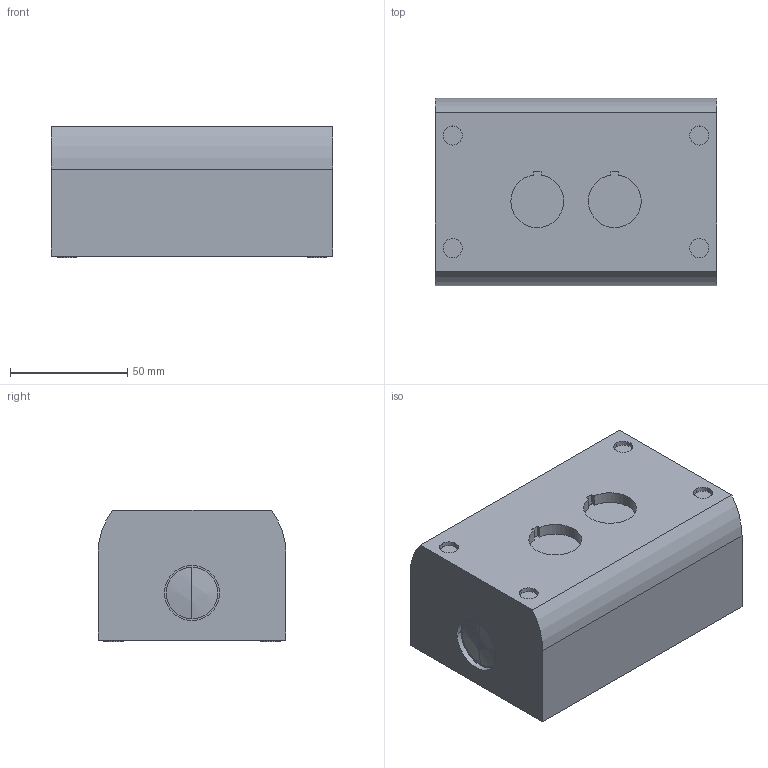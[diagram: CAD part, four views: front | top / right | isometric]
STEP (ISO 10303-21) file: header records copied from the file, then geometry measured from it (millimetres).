
FILE_DESCRIPTION( ( '' ), '1' );
FILE_NAME( '//expscmdclustefs.cadenas.external/client_exchange/iodir/jobs/output/wkb45968538_no0/STEP/216537_2_03.stp', '2012-06-14T13:43:43', ( '' ), ( '' ), ' ', ' ', ' ' );
FILE_SCHEMA( ( 'CONFIG_CONTROL_DESIGN' ) );
Length unit declared in the file: millimetre
Products named in the file (1): 1
Bounding box: 120 x 80 x 56 mm (x, y, z)
Volume: 515237.8 mm3; surface area: 41663.9 mm2
Topology: 1 solids, 1 shells, 68 faces, 148 edges, 98 vertices
Faces by surface type: cylinder 32, plane 27, sphere 5, torus 4
Entity records: 1922 total; most frequent: DIRECTION 364, CARTESIAN_POINT 311, ORIENTED_EDGE 288, AXIS2_PLACEMENT_3D 151, EDGE_CURVE 144, VERTEX_POINT 98, EDGE_LOOP 88, CIRCLE 82
